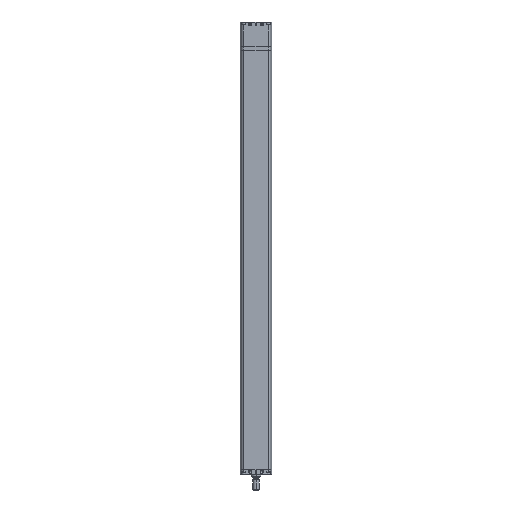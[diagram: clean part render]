
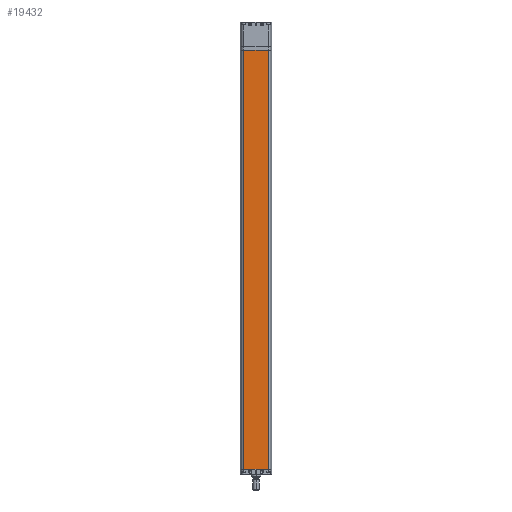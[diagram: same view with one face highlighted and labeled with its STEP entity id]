
A CAD part, front view. The second image highlights one B-rep face of the part: STEP entity #19432.
In plain terms, the highlighted planar face has unit normal (0, -1, 0).
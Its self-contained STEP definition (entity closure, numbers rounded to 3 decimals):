
#118 = VERTEX_POINT ( 'NONE', #16388 ) ;
#1440 = DIRECTION ( 'NONE',  ( 1., 0., 0. ) ) ;
#1549 = LINE ( 'NONE', #8293, #11162 ) ;
#1608 = DIRECTION ( 'NONE',  ( 1., 0., 0. ) ) ;
#2829 = ORIENTED_EDGE ( 'NONE', *, *, #5149, .F. ) ;
#3201 = DIRECTION ( 'NONE',  ( 0., 0., -1. ) ) ;
#3893 = CARTESIAN_POINT ( 'NONE',  ( 31.138, -41., -1073. ) ) ;
#3903 = VERTEX_POINT ( 'NONE', #7048 ) ;
#4126 = DIRECTION ( 'NONE',  ( 0., 0., 1. ) ) ;
#4763 = LINE ( 'NONE', #14117, #16168 ) ;
#5149 = EDGE_CURVE ( 'NONE', #12833, #16520, #1549, .T. ) ;
#5685 = VECTOR ( 'NONE', #1608, 1000. ) ;
#6485 = DIRECTION ( 'NONE',  ( 0., -1., 0. ) ) ;
#6669 = LINE ( 'NONE', #13446, #5685 ) ;
#7048 = CARTESIAN_POINT ( 'NONE',  ( -31.138, -41., -1151. ) ) ;
#8293 = CARTESIAN_POINT ( 'NONE',  ( -41., -41., -73. ) ) ;
#8603 = FACE_OUTER_BOUND ( 'NONE', #16238, .T. ) ;
#9512 = ORIENTED_EDGE ( 'NONE', *, *, #15410, .T. ) ;
#9807 = CARTESIAN_POINT ( 'NONE',  ( -31.138, -41., -73. ) ) ;
#10417 = PLANE ( 'NONE',  #13592 ) ;
#11162 = VECTOR ( 'NONE', #1440, 1000. ) ;
#12833 = VERTEX_POINT ( 'NONE', #9807 ) ;
#13446 = CARTESIAN_POINT ( 'NONE',  ( -41., -41., -1151. ) ) ;
#13592 = AXIS2_PLACEMENT_3D ( 'NONE', #18593, #6485, #3201 ) ;
#14117 = CARTESIAN_POINT ( 'NONE',  ( -31.138, -41., -1073. ) ) ;
#14948 = CARTESIAN_POINT ( 'NONE',  ( 31.138, -41., -73. ) ) ;
#15410 = EDGE_CURVE ( 'NONE', #3903, #118, #6669, .T. ) ;
#16168 = VECTOR ( 'NONE', #18571, 1000. ) ;
#16238 = EDGE_LOOP ( 'NONE', ( #18831, #9512, #20755, #2829 ) ) ;
#16388 = CARTESIAN_POINT ( 'NONE',  ( 31.138, -41., -1151. ) ) ;
#16520 = VERTEX_POINT ( 'NONE', #14948 ) ;
#18571 = DIRECTION ( 'NONE',  ( 0., 0., -1. ) ) ;
#18593 = CARTESIAN_POINT ( 'NONE',  ( -41., -41., -1073. ) ) ;
#18831 = ORIENTED_EDGE ( 'NONE', *, *, #19882, .T. ) ;
#19432 = ADVANCED_FACE ( 'NONE', ( #8603 ), #10417, .T. ) ;
#19652 = LINE ( 'NONE', #3893, #20919 ) ;
#19882 = EDGE_CURVE ( 'NONE', #12833, #3903, #4763, .T. ) ;
#20501 = EDGE_CURVE ( 'NONE', #118, #16520, #19652, .T. ) ;
#20755 = ORIENTED_EDGE ( 'NONE', *, *, #20501, .T. ) ;
#20919 = VECTOR ( 'NONE', #4126, 1000. ) ;
